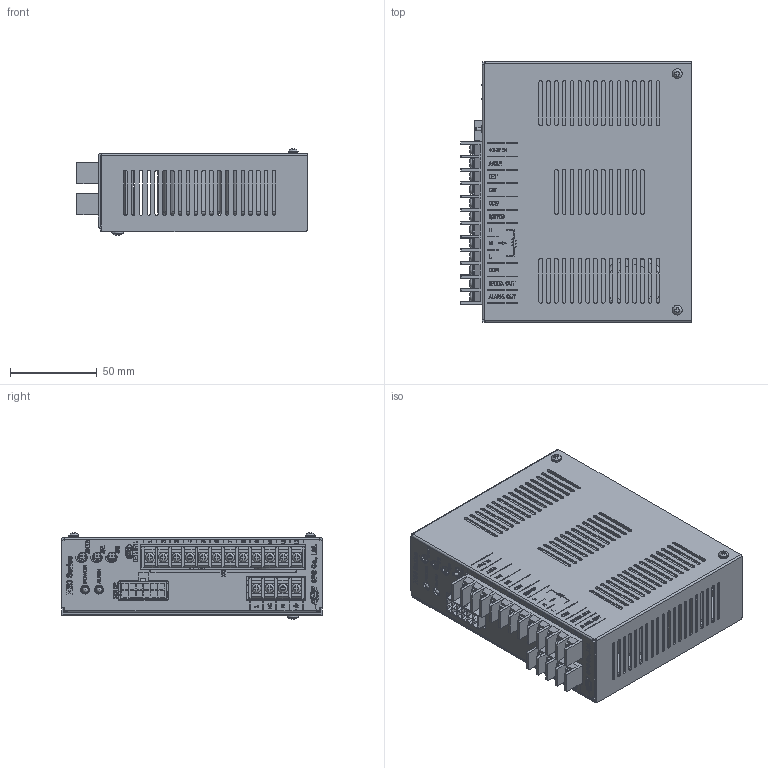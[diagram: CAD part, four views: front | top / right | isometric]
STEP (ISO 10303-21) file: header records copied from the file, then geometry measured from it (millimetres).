
FILE_DESCRIPTION((''),'2;1');
FILE_NAME('C:\Users\namhun\Desktop\XBD.stp','2014-06-19T15:50:56',('namhun'),(''),'Autodesk Inventor 2013','Autodesk Inventor 2013','');
FILE_SCHEMA(('AUTOMOTIVE_DESIGN { 1 0 10303 214 1 1 1 1 }'));
Length unit declared in the file: millimetre
Products named in the file (1): 부품44
Bounding box: 132.4 x 150 x 49.73 mm (x, y, z)
Volume: 274621.1 mm3; surface area: 223989.4 mm2
Topology: 1 solids, 13 shells, 4540 faces, 12288 edges, 8141 vertices
Faces by surface type: plane 3261, bspline 740, cylinder 482, torus 28, cone 27, sphere 2
Full cylindrical faces by diameter (mm): 1.75 x1, 2.459 x16, 3 x37, 3.2 x2, 3.242 x1, 3.4 x4, 3.5 x6, 4 x9, 5 x5, 5.4 x16, 5.5 x3, 5.6 x8, 6 x5, 7 x3, 23.5 x2, 35.3 x2
Entity records: 150859 total; most frequent: CARTESIAN_POINT 36975, ORIENTED_EDGE 24048, DIRECTION 18964, EDGE_CURVE 12024, VECTOR 9114, LINE 9114, VERTEX_POINT 8077, EDGE_LOOP 5463
